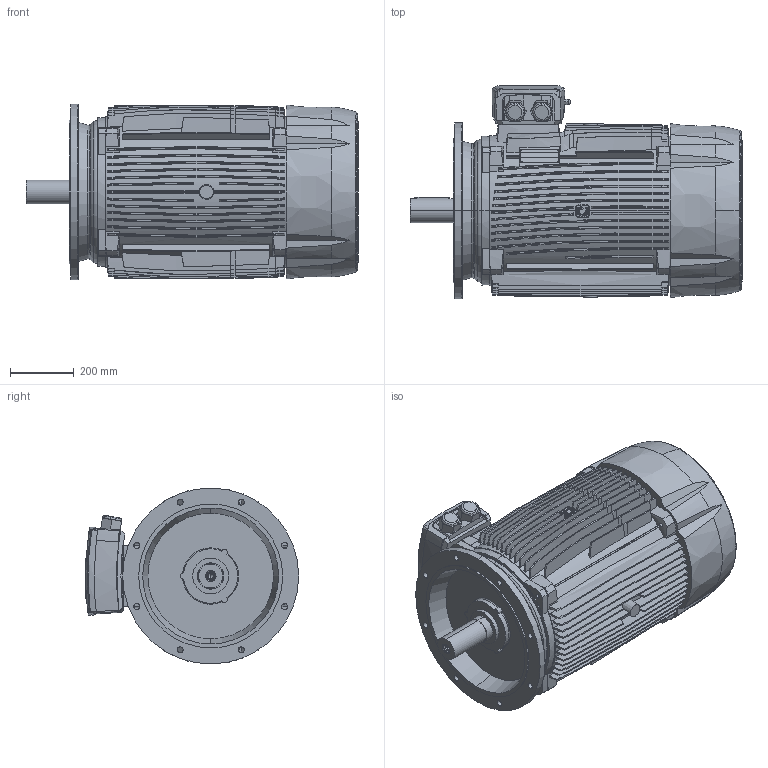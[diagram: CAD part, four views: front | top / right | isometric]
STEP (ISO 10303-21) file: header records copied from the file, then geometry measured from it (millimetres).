
FILE_DESCRIPTION((''),'2;1');
FILE_NAME('280M_ASM','2016-07-22T',('user'),(''),'PRO/ENGINEER BY PARAMETRIC TECHNOLOGY CORPORATION, 2010020','PRO/ENGINEER BY PARAMETRIC TECHNOLOGY CORPORATION, 2010020','');
FILE_SCHEMA(('CONFIG_CONTROL_DESIGN'));
Products named in the file (6): FRA280M; B5280; TBOX280; FCV280; SH280M_4-8P; 280M_ASM
Assembly tree (5 placements, depth 2):
  280M_ASM
    FRA280M
    B5280
    TBOX280
    FCV280
    SH280M_4-8P
Bounding box: 1038 x 666.79 x 550 mm (x, y, z)
Volume: 174845886.1 mm3; surface area: 5205550.9 mm2
Topology: 5 solids, 19 shells, 2236 faces, 6052 edges, 3967 vertices
Faces by surface type: plane 977, cylinder 626, torus 301, cone 171, bspline 93, extrusion 68
Entity records: 78795 total; most frequent: CARTESIAN_POINT 26539, ORIENTED_EDGE 12036, DIRECTION 9077, EDGE_CURVE 6018, VERTEX_POINT 3967, AXIS2_PLACEMENT_3D 3456, B_SPLINE_CURVE_WITH_KNOTS 2619, EDGE_LOOP 2431
